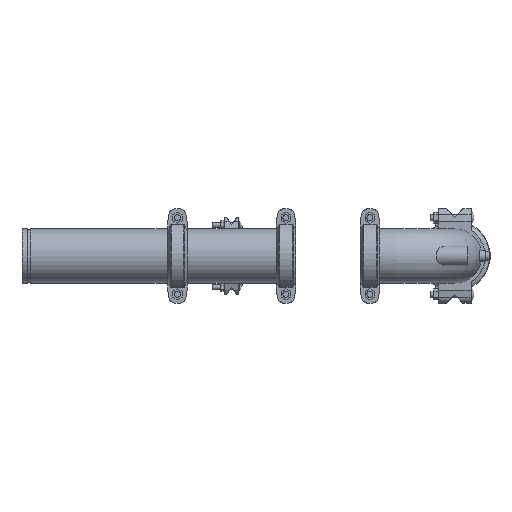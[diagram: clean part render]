
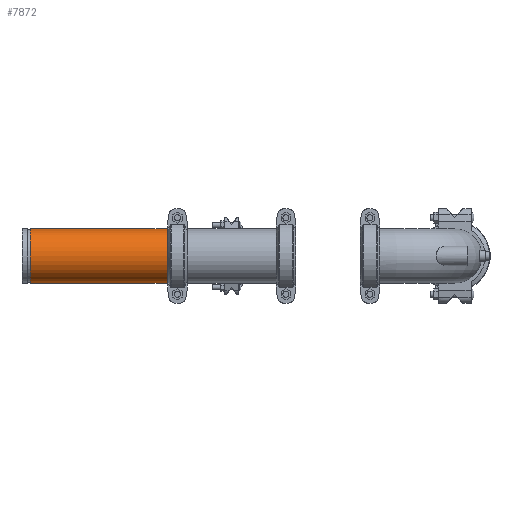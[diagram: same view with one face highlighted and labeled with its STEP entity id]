
A CAD part, left-side view. The second image highlights one B-rep face of the part: STEP entity #7872.
In plain terms, the highlighted cylindrical face has radius 84.138 mm (diameter 168.275 mm), a full revolution.
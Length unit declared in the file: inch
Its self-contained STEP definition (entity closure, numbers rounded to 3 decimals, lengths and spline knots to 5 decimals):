
#230=B_SPLINE_CURVE_WITH_KNOTS('',3,(#14367,#14368,#14369,#14370,#14371,
#14372,#14373,#14374,#14375,#14376,#14377,#14378,#14379,#14380,#14381,#14382,
#14383,#14384,#14385,#14386,#14387,#14388,#14389,#14390,#14391,#14392,#14393,
#14394,#14395,#14396,#14397,#14398,#14399,#14400),.UNSPECIFIED.,.F.,.F.,
(4,2,2,2,2,2,2,2,2,2,2,2,2,2,2,2,4),(6.05031,6.72063,7.39095,
8.06127,8.73158,9.57384,10.4161,11.25836,
12.10061,12.8095,13.5184,14.22729,14.93618,
15.59151,16.24683,16.90216,17.55749),
 .UNSPECIFIED.);
#231=B_SPLINE_CURVE_WITH_KNOTS('',3,(#14407,#14408,#14409,#14410,#14411,
#14412,#14413,#14414,#14415,#14416,#14417,#14418,#14419,#14420,#14421,#14422,
#14423,#14424),.UNSPECIFIED.,.F.,.F.,(4,2,2,2,2,2,2,2,4),(17.55749,
18.21281,18.86814,19.52347,20.1788,20.88769,
21.59658,22.30547,23.01436),.UNSPECIFIED.);
#232=B_SPLINE_CURVE_WITH_KNOTS('',3,(#14425,#14426,#14427,#14428,#14429,
#14430,#14431,#14432,#14433,#14434,#14435,#14436,#14437,#14438,#14439,#14440,
#14441,#14442),.UNSPECIFIED.,.F.,.F.,(4,2,2,2,2,2,2,2,4),(0.,0.84226,
1.68451,2.52677,3.36903,4.03935,4.70967,
5.37999,6.05031),.UNSPECIFIED.);
#774=LINE('',#14365,#1281);
#775=LINE('',#14402,#1282);
#1281=VECTOR('',#11287,3.3125);
#1282=VECTOR('',#11288,3.3125);
#1421=CYLINDRICAL_SURFACE('',#9010,3.3125);
#1900=FACE_OUTER_BOUND('',#2380,.T.);
#2380=EDGE_LOOP('',(#6755,#6756,#6757,#6758,#6759,#6760,#6761,#6762,#6763,
#6764,#6765));
#2823=CIRCLE('',#9011,3.3125);
#2824=CIRCLE('',#9012,3.3125);
#2825=CIRCLE('',#9013,3.3125);
#2826=CIRCLE('',#9014,3.3125);
#3560=VERTEX_POINT('',#14360);
#3561=VERTEX_POINT('',#14361);
#3562=VERTEX_POINT('',#14364);
#3563=VERTEX_POINT('',#14366);
#3564=VERTEX_POINT('',#14401);
#3565=VERTEX_POINT('',#14403);
#3566=VERTEX_POINT('',#14406);
#4636=EDGE_CURVE('',#3560,#3561,#2823,.T.);
#4637=EDGE_CURVE('',#3561,#3560,#2824,.T.);
#4638=EDGE_CURVE('',#3561,#3562,#774,.T.);
#4639=EDGE_CURVE('',#3562,#3563,#230,.T.);
#4640=EDGE_CURVE('',#3563,#3564,#775,.T.);
#4641=EDGE_CURVE('',#3564,#3565,#2825,.T.);
#4642=EDGE_CURVE('',#3565,#3564,#2826,.T.);
#4643=EDGE_CURVE('',#3563,#3566,#231,.T.);
#4644=EDGE_CURVE('',#3566,#3562,#232,.T.);
#6755=ORIENTED_EDGE('',*,*,#4636,.F.);
#6756=ORIENTED_EDGE('',*,*,#4637,.F.);
#6757=ORIENTED_EDGE('',*,*,#4638,.T.);
#6758=ORIENTED_EDGE('',*,*,#4639,.T.);
#6759=ORIENTED_EDGE('',*,*,#4640,.T.);
#6760=ORIENTED_EDGE('',*,*,#4641,.T.);
#6761=ORIENTED_EDGE('',*,*,#4642,.T.);
#6762=ORIENTED_EDGE('',*,*,#4640,.F.);
#6763=ORIENTED_EDGE('',*,*,#4643,.T.);
#6764=ORIENTED_EDGE('',*,*,#4644,.T.);
#6765=ORIENTED_EDGE('',*,*,#4638,.F.);
#7872=ADVANCED_FACE('',(#1900),#1421,.T.);
#9010=AXIS2_PLACEMENT_3D('',#14359,#11281,#11282);
#9011=AXIS2_PLACEMENT_3D('',#14362,#11283,#11284);
#9012=AXIS2_PLACEMENT_3D('',#14363,#11285,#11286);
#9013=AXIS2_PLACEMENT_3D('',#14404,#11289,#11290);
#9014=AXIS2_PLACEMENT_3D('',#14405,#11291,#11292);
#11281=DIRECTION('center_axis',(1.,0.,0.));
#11282=DIRECTION('ref_axis',(0.,1.,0.));
#11283=DIRECTION('center_axis',(1.,0.,0.));
#11284=DIRECTION('ref_axis',(0.,0.,-1.));
#11285=DIRECTION('center_axis',(1.,0.,0.));
#11286=DIRECTION('ref_axis',(0.,0.,-1.));
#11287=DIRECTION('',(-1.,0.,0.));
#11288=DIRECTION('',(-1.,0.,0.));
#11289=DIRECTION('center_axis',(1.,0.,0.));
#11290=DIRECTION('ref_axis',(0.,0.,-1.));
#11291=DIRECTION('center_axis',(1.,0.,0.));
#11292=DIRECTION('ref_axis',(0.,0.,-1.));
#14359=CARTESIAN_POINT('Origin',(0.,0.,0.));
#14360=CARTESIAN_POINT('',(8.44,3.3125,0.));
#14361=CARTESIAN_POINT('',(8.44,-3.3125,0.));
#14362=CARTESIAN_POINT('Origin',(8.44,0.,0.));
#14363=CARTESIAN_POINT('Origin',(8.44,0.,0.));
#14364=CARTESIAN_POINT('',(-0.56199,-3.3125,0.));
#14365=CARTESIAN_POINT('',(0.,-3.3125,0.));
#14366=CARTESIAN_POINT('',(-3.73742,-3.3125,0.));
#14367=CARTESIAN_POINT('Ctrl Pts',(-0.56199,-3.3125,0.));
#14368=CARTESIAN_POINT('Ctrl Pts',(-0.56199,-3.3125,-0.08797));
#14369=CARTESIAN_POINT('Ctrl Pts',(-0.57396,-3.30891,
-0.17699));
#14370=CARTESIAN_POINT('Ctrl Pts',(-0.62117,-3.29504,
-0.35064));
#14371=CARTESIAN_POINT('Ctrl Pts',(-0.65638,-3.28477,
-0.43527));
#14372=CARTESIAN_POINT('Ctrl Pts',(-0.74533,-3.25965,
-0.59486));
#14373=CARTESIAN_POINT('Ctrl Pts',(-0.79914,-3.2448,
-0.67001));
#14374=CARTESIAN_POINT('Ctrl Pts',(-0.91839,-3.21335,
-0.80746));
#14375=CARTESIAN_POINT('Ctrl Pts',(-0.98383,-3.19678,
-0.86977));
#14376=CARTESIAN_POINT('Ctrl Pts',(-1.13466,-3.16076,
-0.9937));
#14377=CARTESIAN_POINT('Ctrl Pts',(-1.22813,-3.13986,
-1.05708));
#14378=CARTESIAN_POINT('Ctrl Pts',(-1.42843,-3.10011,
-1.16855));
#14379=CARTESIAN_POINT('Ctrl Pts',(-1.53524,-3.08127,
-1.21664));
#14380=CARTESIAN_POINT('Ctrl Pts',(-1.75584,-3.04928,
-1.29474));
#14381=CARTESIAN_POINT('Ctrl Pts',(-1.8697,-3.03614,
-1.32476));
#14382=CARTESIAN_POINT('Ctrl Pts',(-2.09763,-3.01831,
-1.36491));
#14383=CARTESIAN_POINT('Ctrl Pts',(-2.21172,-3.01364,-1.375));
#14384=CARTESIAN_POINT('Ctrl Pts',(-2.41528,-3.01364,-1.375));
#14385=CARTESIAN_POINT('Ctrl Pts',(-2.51186,-3.01696,
-1.36781));
#14386=CARTESIAN_POINT('Ctrl Pts',(-2.7038,-3.03145,
-1.33539));
#14387=CARTESIAN_POINT('Ctrl Pts',(-2.79915,-3.04263,
-1.31014));
#14388=CARTESIAN_POINT('Ctrl Pts',(-2.98102,-3.07151,
-1.24092));
#14389=CARTESIAN_POINT('Ctrl Pts',(-3.06773,-3.08922,
-1.19686));
#14390=CARTESIAN_POINT('Ctrl Pts',(-3.22661,-3.12765,
-1.0925));
#14391=CARTESIAN_POINT('Ctrl Pts',(-3.2988,-3.14832,
-1.03219));
#14392=CARTESIAN_POINT('Ctrl Pts',(-3.42027,-3.18671,
-0.9064));
#14393=CARTESIAN_POINT('Ctrl Pts',(-3.47439,-3.20566,
-0.83802));
#14394=CARTESIAN_POINT('Ctrl Pts',(-3.56894,-3.24097,
-0.68892));
#14395=CARTESIAN_POINT('Ctrl Pts',(-3.6094,-3.2573,
-0.6082));
#14396=CARTESIAN_POINT('Ctrl Pts',(-3.67401,-3.2843,
-0.43969));
#14397=CARTESIAN_POINT('Ctrl Pts',(-3.69822,-3.29496,
-0.35178));
#14398=CARTESIAN_POINT('Ctrl Pts',(-3.72993,-3.30907,
-0.17493));
#14399=CARTESIAN_POINT('Ctrl Pts',(-3.73742,-3.3125,-0.086));
#14400=CARTESIAN_POINT('Ctrl Pts',(-3.73742,-3.3125,0.));
#14401=CARTESIAN_POINT('',(-8.44,-3.3125,0.));
#14402=CARTESIAN_POINT('',(0.,-3.3125,0.));
#14403=CARTESIAN_POINT('',(-8.44,3.3125,0.));
#14404=CARTESIAN_POINT('Origin',(-8.44,0.,0.));
#14405=CARTESIAN_POINT('Origin',(-8.44,0.,0.));
#14406=CARTESIAN_POINT('',(-2.32225,-3.01364,1.375));
#14407=CARTESIAN_POINT('Ctrl Pts',(-3.73742,-3.3125,0.));
#14408=CARTESIAN_POINT('Ctrl Pts',(-3.73742,-3.3125,0.086));
#14409=CARTESIAN_POINT('Ctrl Pts',(-3.72993,-3.30907,
0.17493));
#14410=CARTESIAN_POINT('Ctrl Pts',(-3.69822,-3.29496,
0.35178));
#14411=CARTESIAN_POINT('Ctrl Pts',(-3.67401,-3.2843,
0.43969));
#14412=CARTESIAN_POINT('Ctrl Pts',(-3.6094,-3.2573,
0.6082));
#14413=CARTESIAN_POINT('Ctrl Pts',(-3.56894,-3.24097,
0.68892));
#14414=CARTESIAN_POINT('Ctrl Pts',(-3.47439,-3.20566,
0.83802));
#14415=CARTESIAN_POINT('Ctrl Pts',(-3.42027,-3.18671,
0.9064));
#14416=CARTESIAN_POINT('Ctrl Pts',(-3.2988,-3.14832,
1.03219));
#14417=CARTESIAN_POINT('Ctrl Pts',(-3.22661,-3.12765,
1.0925));
#14418=CARTESIAN_POINT('Ctrl Pts',(-3.06773,-3.08922,
1.19686));
#14419=CARTESIAN_POINT('Ctrl Pts',(-2.98102,-3.07151,
1.24092));
#14420=CARTESIAN_POINT('Ctrl Pts',(-2.79915,-3.04263,
1.31014));
#14421=CARTESIAN_POINT('Ctrl Pts',(-2.7038,-3.03145,
1.33539));
#14422=CARTESIAN_POINT('Ctrl Pts',(-2.51186,-3.01696,
1.36781));
#14423=CARTESIAN_POINT('Ctrl Pts',(-2.41528,-3.01364,1.375));
#14424=CARTESIAN_POINT('Ctrl Pts',(-2.32225,-3.01364,1.375));
#14425=CARTESIAN_POINT('Ctrl Pts',(-2.32225,-3.01364,1.375));
#14426=CARTESIAN_POINT('Ctrl Pts',(-2.21172,-3.01364,1.375));
#14427=CARTESIAN_POINT('Ctrl Pts',(-2.09763,-3.01831,
1.36491));
#14428=CARTESIAN_POINT('Ctrl Pts',(-1.8697,-3.03614,
1.32476));
#14429=CARTESIAN_POINT('Ctrl Pts',(-1.75584,-3.04928,
1.29474));
#14430=CARTESIAN_POINT('Ctrl Pts',(-1.53524,-3.08127,
1.21664));
#14431=CARTESIAN_POINT('Ctrl Pts',(-1.42843,-3.10011,
1.16855));
#14432=CARTESIAN_POINT('Ctrl Pts',(-1.22813,-3.13986,
1.05708));
#14433=CARTESIAN_POINT('Ctrl Pts',(-1.13466,-3.16076,
0.9937));
#14434=CARTESIAN_POINT('Ctrl Pts',(-0.98383,-3.19678,
0.86977));
#14435=CARTESIAN_POINT('Ctrl Pts',(-0.91839,-3.21335,
0.80746));
#14436=CARTESIAN_POINT('Ctrl Pts',(-0.79914,-3.2448,
0.67001));
#14437=CARTESIAN_POINT('Ctrl Pts',(-0.74533,-3.25965,
0.59486));
#14438=CARTESIAN_POINT('Ctrl Pts',(-0.65638,-3.28477,
0.43527));
#14439=CARTESIAN_POINT('Ctrl Pts',(-0.62117,-3.29504,
0.35064));
#14440=CARTESIAN_POINT('Ctrl Pts',(-0.57396,-3.30891,
0.17699));
#14441=CARTESIAN_POINT('Ctrl Pts',(-0.56199,-3.3125,0.08797));
#14442=CARTESIAN_POINT('Ctrl Pts',(-0.56199,-3.3125,0.));
